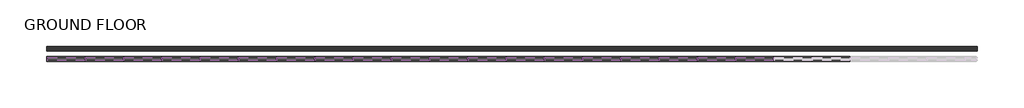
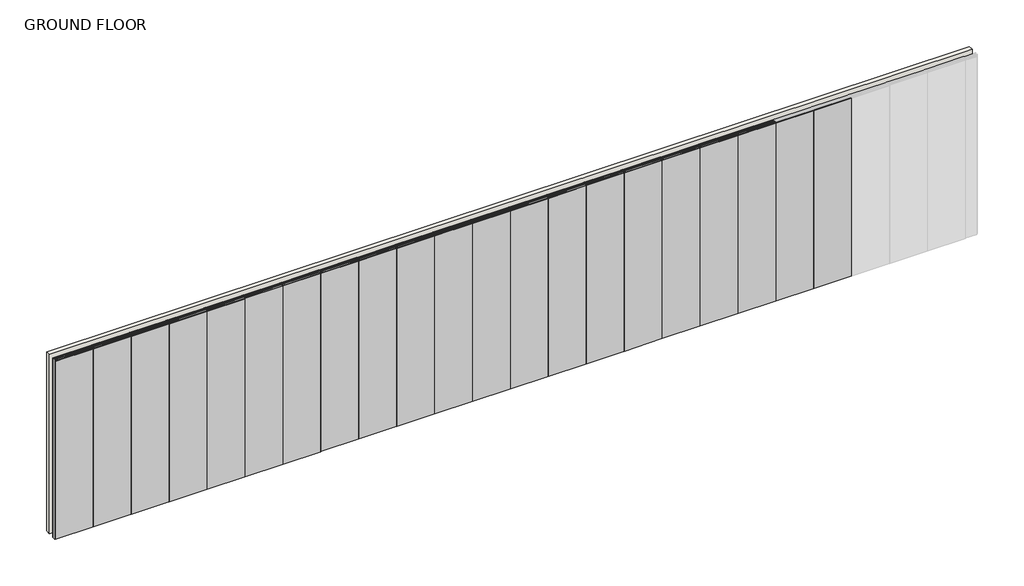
# One storey, part 1 of 2: 57 members, 21 plates, 1 wall.
"""IFC4 building model written with IfcOpenShell, lengths in millimetres."""

from ifc_helpers import new_model, si_unit, origin, origin_with_axes, place, context, project, spatial, polyline, outline, extrude, transform, mapped, element, save
from components import rectangular_mullion_stud_mullion_51mm_2ef0a27f, rectangular_mullion_stud_mullion_51mm_a2fb9e12, rectangular_mullion_stud_mullion_51mm_92998b61, rectangular_mullion_stud_mullion_51mm_8a3d9f1b, plate_2_layer_drywall_panels_2_layer_12mm_thick_drywall_a247d09f

model = new_model("IFC4")

# Units and contexts
model_context = context("Model", 3, world=origin())
ifc_project = project(units=[si_unit("LENGTHUNIT", "METRE", prefix="MILLI")], contexts=[model_context])

# Site, building, storey
site = spatial("IfcSite", under=ifc_project)
building = spatial("IfcBuilding", under=site)
storey = spatial("IfcBuildingStorey", under=building, Name="GROUND FLOOR", Elevation=0.0)

# Members
placement = place(None, origin())
rectangular_mullion_stud_mullion_51mm_shape = rectangular_mullion_stud_mullion_51mm_2ef0a27f(model_context)
element("IfcMember", 1, ObjectType="Rectangular Mullion : Stud Mullion - 51mm", at=placement, inside=storey, context=model_context, shape_type="MappedRepresentation", body=[
    mapped(rectangular_mullion_stud_mullion_51mm_shape, transform((61654.5186508, -7259.4010443, 0.0), x_axis=(0.0, 0.0, -1.0), y_axis=(0.0, -1.0, 0.0), z_axis=(-1.0, 0.0, 0.0))),
])
element("IfcMember", 2, ObjectType="Rectangular Mullion : Stud Mullion - 51mm", at=placement, inside=storey, context=model_context, shape_type="MappedRepresentation", body=[
    mapped(rectangular_mullion_stud_mullion_51mm_shape, transform((62254.5186511, -7259.4010443, 0.0), x_axis=(0.0, 0.0, -1.0), y_axis=(0.0, -1.0, 0.0), z_axis=(-1.0, 0.0, 0.0))),
])
element("IfcMember", 3, ObjectType="Rectangular Mullion : Stud Mullion - 51mm", at=placement, inside=storey, context=model_context, shape_type="MappedRepresentation", body=[
    mapped(rectangular_mullion_stud_mullion_51mm_shape, transform((62854.5186511, -7259.4010443, 0.0), x_axis=(0.0, 0.0, -1.0), y_axis=(0.0, -1.0, 0.0), z_axis=(-1.0, 0.0, 0.0))),
])
element("IfcMember", 4, ObjectType="Rectangular Mullion : Stud Mullion - 51mm", at=placement, inside=storey, context=model_context, shape_type="MappedRepresentation", body=[
    mapped(rectangular_mullion_stud_mullion_51mm_shape, transform((63454.5186511, -7259.4010443, 0.0), x_axis=(0.0, 0.0, -1.0), y_axis=(0.0, -1.0, 0.0), z_axis=(-1.0, 0.0, 0.0))),
])
element("IfcMember", 5, ObjectType="Rectangular Mullion : Stud Mullion - 51mm", at=placement, inside=storey, context=model_context, shape_type="MappedRepresentation", body=[
    mapped(rectangular_mullion_stud_mullion_51mm_shape, transform((64054.5186511, -7259.4010443, 0.0), x_axis=(0.0, 0.0, -1.0), y_axis=(0.0, -1.0, 0.0), z_axis=(-1.0, 0.0, 0.0))),
])
element("IfcMember", 6, ObjectType="Rectangular Mullion : Stud Mullion - 51mm", at=placement, inside=storey, context=model_context, shape_type="MappedRepresentation", body=[
    mapped(rectangular_mullion_stud_mullion_51mm_shape, transform((64654.5186511, -7259.4010443, 0.0), x_axis=(0.0, 0.0, -1.0), y_axis=(0.0, -1.0, 0.0), z_axis=(-1.0, 0.0, 0.0))),
])
element("IfcMember", 7, ObjectType="Rectangular Mullion : Stud Mullion - 51mm", at=placement, inside=storey, context=model_context, shape_type="MappedRepresentation", body=[
    mapped(rectangular_mullion_stud_mullion_51mm_shape, transform((65254.5186511, -7259.4010443, 0.0), x_axis=(0.0, 0.0, -1.0), y_axis=(0.0, -1.0, 0.0), z_axis=(-1.0, 0.0, 0.0))),
])
element("IfcMember", 8, ObjectType="Rectangular Mullion : Stud Mullion - 51mm", at=placement, inside=storey, context=model_context, shape_type="MappedRepresentation", body=[
    mapped(rectangular_mullion_stud_mullion_51mm_shape, transform((65854.5186511, -7259.4010443, 0.0), x_axis=(0.0, 0.0, -1.0), y_axis=(0.0, -1.0, 0.0), z_axis=(-1.0, 0.0, 0.0))),
])
element("IfcMember", 9, ObjectType="Rectangular Mullion : Stud Mullion - 51mm", at=placement, inside=storey, context=model_context, shape_type="MappedRepresentation", body=[
    mapped(rectangular_mullion_stud_mullion_51mm_shape, transform((66454.5186511, -7259.4010443, 0.0), x_axis=(0.0, 0.0, -1.0), y_axis=(0.0, -1.0, 0.0), z_axis=(-1.0, 0.0, 0.0))),
])
element("IfcMember", 10, ObjectType="Rectangular Mullion : Stud Mullion - 51mm", at=placement, inside=storey, context=model_context, shape_type="MappedRepresentation", body=[
    mapped(rectangular_mullion_stud_mullion_51mm_shape, transform((67054.5186511, -7259.4010443, 0.0), x_axis=(0.0, 0.0, -1.0), y_axis=(0.0, -1.0, 0.0), z_axis=(-1.0, 0.0, 0.0))),
])
element("IfcMember", 11, ObjectType="Rectangular Mullion : Stud Mullion - 51mm", at=placement, inside=storey, context=model_context, shape_type="MappedRepresentation", body=[
    mapped(rectangular_mullion_stud_mullion_51mm_shape, transform((67654.5186511, -7259.4010443, 0.0), x_axis=(0.0, 0.0, -1.0), y_axis=(0.0, -1.0, 0.0), z_axis=(-1.0, 0.0, 0.0))),
])
element("IfcMember", 12, ObjectType="Rectangular Mullion : Stud Mullion - 51mm", at=placement, inside=storey, context=model_context, shape_type="MappedRepresentation", body=[
    mapped(rectangular_mullion_stud_mullion_51mm_shape, transform((68254.5186511, -7259.4010443, 0.0), x_axis=(0.0, 0.0, -1.0), y_axis=(0.0, -1.0, 0.0), z_axis=(-1.0, 0.0, 0.0))),
])
element("IfcMember", 13, ObjectType="Rectangular Mullion : Stud Mullion - 51mm", at=placement, inside=storey, context=model_context, shape_type="MappedRepresentation", body=[
    mapped(rectangular_mullion_stud_mullion_51mm_shape, transform((68854.5186511, -7259.4010443, 0.0), x_axis=(0.0, 0.0, -1.0), y_axis=(0.0, -1.0, 0.0), z_axis=(-1.0, 0.0, 0.0))),
])
element("IfcMember", 14, ObjectType="Rectangular Mullion : Stud Mullion - 51mm", at=placement, inside=storey, context=model_context, shape_type="MappedRepresentation", body=[
    mapped(rectangular_mullion_stud_mullion_51mm_shape, transform((69454.5186511, -7259.4010443, 0.0), x_axis=(0.0, 0.0, -1.0), y_axis=(0.0, -1.0, 0.0), z_axis=(-1.0, 0.0, 0.0))),
])
element("IfcMember", 15, ObjectType="Rectangular Mullion : Stud Mullion - 51mm", at=placement, inside=storey, context=model_context, shape_type="MappedRepresentation", body=[
    mapped(rectangular_mullion_stud_mullion_51mm_shape, transform((70054.5186511, -7259.4010443, 0.0), x_axis=(0.0, 0.0, -1.0), y_axis=(0.0, -1.0, 0.0), z_axis=(-1.0, 0.0, 0.0))),
])
element("IfcMember", 16, ObjectType="Rectangular Mullion : Stud Mullion - 51mm", at=placement, inside=storey, context=model_context, shape_type="MappedRepresentation", body=[
    mapped(rectangular_mullion_stud_mullion_51mm_shape, transform((70654.5186511, -7259.4010443, 0.0), x_axis=(0.0, 0.0, -1.0), y_axis=(0.0, -1.0, 0.0), z_axis=(-1.0, 0.0, 0.0))),
])
element("IfcMember", 17, ObjectType="Rectangular Mullion : Stud Mullion - 51mm", at=placement, inside=storey, context=model_context, shape_type="MappedRepresentation", body=[
    mapped(rectangular_mullion_stud_mullion_51mm_shape, transform((71254.5186511, -7259.4010443, 0.0), x_axis=(0.0, 0.0, -1.0), y_axis=(0.0, -1.0, 0.0), z_axis=(-1.0, 0.0, 0.0))),
])
element("IfcMember", 18, ObjectType="Rectangular Mullion : Stud Mullion - 51mm", at=placement, inside=storey, context=model_context, shape_type="MappedRepresentation", body=[
    mapped(rectangular_mullion_stud_mullion_51mm_shape, transform((71854.5186511, -7259.4010443, 0.0), x_axis=(0.0, 0.0, -1.0), y_axis=(0.0, -1.0, 0.0), z_axis=(-1.0, 0.0, 0.0))),
])
element("IfcMember", 19, ObjectType="Rectangular Mullion : Stud Mullion - 51mm", at=placement, inside=storey, context=model_context, shape_type="MappedRepresentation", body=[
    mapped(rectangular_mullion_stud_mullion_51mm_shape, transform((72454.5186511, -7259.4010443, 0.0), x_axis=(0.0, 0.0, -1.0), y_axis=(0.0, -1.0, 0.0), z_axis=(-1.0, 0.0, 0.0))),
])
rectangular_mullion_stud_mullion_51mm_2_shape = rectangular_mullion_stud_mullion_51mm_a2fb9e12(model_context)
element("IfcMember", 20, ObjectType="Rectangular Mullion : Stud Mullion - 51mm", at=placement, inside=storey, context=model_context, shape_type="MappedRepresentation", body=[
    mapped(rectangular_mullion_stud_mullion_51mm_2_shape, transform((61635.5186508, -7259.4010443, 3000.0), x_axis=(-1.0, 0.0, 0.0), y_axis=(0.0, -1.0, 0.0), z_axis=(0.0, 0.0, 1.0))),
])
rectangular_mullion_stud_mullion_51mm_3_shape = rectangular_mullion_stud_mullion_51mm_92998b61(model_context)
element("IfcMember", 21, ObjectType="Rectangular Mullion : Stud Mullion - 51mm", at=placement, inside=storey, context=model_context, shape_type="MappedRepresentation", body=[
    mapped(rectangular_mullion_stud_mullion_51mm_3_shape, transform((62235.5186511, -7259.4010443, 3000.0), x_axis=(0.0, 0.0, 1.0), y_axis=(0.0, -1.0, 0.0), z_axis=(1.0, 0.0, 0.0))),
])
element("IfcMember", 22, ObjectType="Rectangular Mullion : Stud Mullion - 51mm", at=placement, inside=storey, context=model_context, shape_type="MappedRepresentation", body=[
    mapped(rectangular_mullion_stud_mullion_51mm_3_shape, transform((62835.5186511, -7259.4010443, 3000.0), x_axis=(0.0, 0.0, 1.0), y_axis=(0.0, -1.0, 0.0), z_axis=(1.0, 0.0, 0.0))),
])
element("IfcMember", 23, ObjectType="Rectangular Mullion : Stud Mullion - 51mm", at=placement, inside=storey, context=model_context, shape_type="MappedRepresentation", body=[
    mapped(rectangular_mullion_stud_mullion_51mm_3_shape, transform((63435.5186511, -7259.4010443, 3000.0), x_axis=(0.0, 0.0, 1.0), y_axis=(0.0, -1.0, 0.0), z_axis=(1.0, 0.0, 0.0))),
])
element("IfcMember", 24, ObjectType="Rectangular Mullion : Stud Mullion - 51mm", at=placement, inside=storey, context=model_context, shape_type="MappedRepresentation", body=[
    mapped(rectangular_mullion_stud_mullion_51mm_3_shape, transform((64035.5186511, -7259.4010443, 3000.0), x_axis=(0.0, 0.0, 1.0), y_axis=(0.0, -1.0, 0.0), z_axis=(1.0, 0.0, 0.0))),
])
element("IfcMember", 25, ObjectType="Rectangular Mullion : Stud Mullion - 51mm", at=placement, inside=storey, context=model_context, shape_type="MappedRepresentation", body=[
    mapped(rectangular_mullion_stud_mullion_51mm_3_shape, transform((64635.5186511, -7259.4010443, 3000.0), x_axis=(0.0, 0.0, 1.0), y_axis=(0.0, -1.0, 0.0), z_axis=(1.0, 0.0, 0.0))),
])
element("IfcMember", 26, ObjectType="Rectangular Mullion : Stud Mullion - 51mm", at=placement, inside=storey, context=model_context, shape_type="MappedRepresentation", body=[
    mapped(rectangular_mullion_stud_mullion_51mm_3_shape, transform((65235.5186511, -7259.4010443, 3000.0), x_axis=(0.0, 0.0, 1.0), y_axis=(0.0, -1.0, 0.0), z_axis=(1.0, 0.0, 0.0))),
])
element("IfcMember", 27, ObjectType="Rectangular Mullion : Stud Mullion - 51mm", at=placement, inside=storey, context=model_context, shape_type="MappedRepresentation", body=[
    mapped(rectangular_mullion_stud_mullion_51mm_3_shape, transform((65835.5186511, -7259.4010443, 3000.0), x_axis=(0.0, 0.0, 1.0), y_axis=(0.0, -1.0, 0.0), z_axis=(1.0, 0.0, 0.0))),
])
element("IfcMember", 28, ObjectType="Rectangular Mullion : Stud Mullion - 51mm", at=placement, inside=storey, context=model_context, shape_type="MappedRepresentation", body=[
    mapped(rectangular_mullion_stud_mullion_51mm_3_shape, transform((66435.5186511, -7259.4010443, 3000.0), x_axis=(0.0, 0.0, 1.0), y_axis=(0.0, -1.0, 0.0), z_axis=(1.0, 0.0, 0.0))),
])
element("IfcMember", 29, ObjectType="Rectangular Mullion : Stud Mullion - 51mm", at=placement, inside=storey, context=model_context, shape_type="MappedRepresentation", body=[
    mapped(rectangular_mullion_stud_mullion_51mm_3_shape, transform((67035.5186511, -7259.4010443, 3000.0), x_axis=(0.0, 0.0, 1.0), y_axis=(0.0, -1.0, 0.0), z_axis=(1.0, 0.0, 0.0))),
])
element("IfcMember", 30, ObjectType="Rectangular Mullion : Stud Mullion - 51mm", at=placement, inside=storey, context=model_context, shape_type="MappedRepresentation", body=[
    mapped(rectangular_mullion_stud_mullion_51mm_3_shape, transform((67635.5186511, -7259.4010443, 3000.0), x_axis=(0.0, 0.0, 1.0), y_axis=(0.0, -1.0, 0.0), z_axis=(1.0, 0.0, 0.0))),
])
element("IfcMember", 31, ObjectType="Rectangular Mullion : Stud Mullion - 51mm", at=placement, inside=storey, context=model_context, shape_type="MappedRepresentation", body=[
    mapped(rectangular_mullion_stud_mullion_51mm_3_shape, transform((68235.5186511, -7259.4010443, 3000.0), x_axis=(0.0, 0.0, 1.0), y_axis=(0.0, -1.0, 0.0), z_axis=(1.0, 0.0, 0.0))),
])
element("IfcMember", 32, ObjectType="Rectangular Mullion : Stud Mullion - 51mm", at=placement, inside=storey, context=model_context, shape_type="MappedRepresentation", body=[
    mapped(rectangular_mullion_stud_mullion_51mm_3_shape, transform((68835.5186511, -7259.4010443, 3000.0), x_axis=(0.0, 0.0, 1.0), y_axis=(0.0, -1.0, 0.0), z_axis=(1.0, 0.0, 0.0))),
])
element("IfcMember", 33, ObjectType="Rectangular Mullion : Stud Mullion - 51mm", at=placement, inside=storey, context=model_context, shape_type="MappedRepresentation", body=[
    mapped(rectangular_mullion_stud_mullion_51mm_3_shape, transform((69435.5186511, -7259.4010443, 3000.0), x_axis=(0.0, 0.0, 1.0), y_axis=(0.0, -1.0, 0.0), z_axis=(1.0, 0.0, 0.0))),
])
element("IfcMember", 34, ObjectType="Rectangular Mullion : Stud Mullion - 51mm", at=placement, inside=storey, context=model_context, shape_type="MappedRepresentation", body=[
    mapped(rectangular_mullion_stud_mullion_51mm_3_shape, transform((70035.5186511, -7259.4010443, 3000.0), x_axis=(0.0, 0.0, 1.0), y_axis=(0.0, -1.0, 0.0), z_axis=(1.0, 0.0, 0.0))),
])
element("IfcMember", 35, ObjectType="Rectangular Mullion : Stud Mullion - 51mm", at=placement, inside=storey, context=model_context, shape_type="MappedRepresentation", body=[
    mapped(rectangular_mullion_stud_mullion_51mm_3_shape, transform((70635.5186511, -7259.4010443, 3000.0), x_axis=(0.0, 0.0, 1.0), y_axis=(0.0, -1.0, 0.0), z_axis=(1.0, 0.0, 0.0))),
])
element("IfcMember", 36, ObjectType="Rectangular Mullion : Stud Mullion - 51mm", at=placement, inside=storey, context=model_context, shape_type="MappedRepresentation", body=[
    mapped(rectangular_mullion_stud_mullion_51mm_3_shape, transform((71235.5186511, -7259.4010443, 3000.0), x_axis=(0.0, 0.0, 1.0), y_axis=(0.0, -1.0, 0.0), z_axis=(1.0, 0.0, 0.0))),
])
element("IfcMember", 37, ObjectType="Rectangular Mullion : Stud Mullion - 51mm", at=placement, inside=storey, context=model_context, shape_type="MappedRepresentation", body=[
    mapped(rectangular_mullion_stud_mullion_51mm_3_shape, transform((71835.5186511, -7259.4010443, 3000.0), x_axis=(0.0, 0.0, 1.0), y_axis=(0.0, -1.0, 0.0), z_axis=(1.0, 0.0, 0.0))),
])
element("IfcMember", 38, ObjectType="Rectangular Mullion : Stud Mullion - 51mm", at=placement, inside=storey, context=model_context, shape_type="MappedRepresentation", body=[
    mapped(rectangular_mullion_stud_mullion_51mm_3_shape, transform((72435.5186511, -7259.4010443, 3000.0), x_axis=(0.0, 0.0, 1.0), y_axis=(0.0, -1.0, 0.0), z_axis=(1.0, 0.0, 0.0))),
])
element("IfcMember", 39, ObjectType="Rectangular Mullion : Stud Mullion - 51mm", at=placement, inside=storey, context=model_context, shape_type="MappedRepresentation", body=[
    mapped(rectangular_mullion_stud_mullion_51mm_3_shape, transform((73035.5186511, -7259.4010443, 3000.0), x_axis=(0.0, 0.0, 1.0), y_axis=(0.0, -1.0, 0.0), z_axis=(1.0, 0.0, 0.0))),
])
rectangular_mullion_stud_mullion_51mm_4_shape = rectangular_mullion_stud_mullion_51mm_8a3d9f1b(model_context)
element("IfcMember", 40, ObjectType="Rectangular Mullion : Stud Mullion - 51mm", at=placement, inside=storey, context=model_context, shape_type="MappedRepresentation", body=[
    mapped(rectangular_mullion_stud_mullion_51mm_4_shape, transform((62245.0186511, -7259.4010443, 0.0), x_axis=(1.0, 0.0, 0.0), y_axis=(0.0, -1.0, 0.0), z_axis=(0.0, 0.0, -1.0))),
])
element("IfcMember", 41, ObjectType="Rectangular Mullion : Stud Mullion - 51mm", at=placement, inside=storey, context=model_context, shape_type="MappedRepresentation", body=[
    mapped(rectangular_mullion_stud_mullion_51mm_4_shape, transform((62845.0186511, -7259.4010443, 0.0), x_axis=(1.0, 0.0, 0.0), y_axis=(0.0, -1.0, 0.0), z_axis=(0.0, 0.0, -1.0))),
])
element("IfcMember", 42, ObjectType="Rectangular Mullion : Stud Mullion - 51mm", at=placement, inside=storey, context=model_context, shape_type="MappedRepresentation", body=[
    mapped(rectangular_mullion_stud_mullion_51mm_4_shape, transform((63445.0186511, -7259.4010443, 0.0), x_axis=(1.0, 0.0, 0.0), y_axis=(0.0, -1.0, 0.0), z_axis=(0.0, 0.0, -1.0))),
])
element("IfcMember", 43, ObjectType="Rectangular Mullion : Stud Mullion - 51mm", at=placement, inside=storey, context=model_context, shape_type="MappedRepresentation", body=[
    mapped(rectangular_mullion_stud_mullion_51mm_4_shape, transform((64045.0186511, -7259.4010443, 0.0), x_axis=(1.0, 0.0, 0.0), y_axis=(0.0, -1.0, 0.0), z_axis=(0.0, 0.0, -1.0))),
])
element("IfcMember", 44, ObjectType="Rectangular Mullion : Stud Mullion - 51mm", at=placement, inside=storey, context=model_context, shape_type="MappedRepresentation", body=[
    mapped(rectangular_mullion_stud_mullion_51mm_4_shape, transform((64645.0186511, -7259.4010443, 0.0), x_axis=(1.0, 0.0, 0.0), y_axis=(0.0, -1.0, 0.0), z_axis=(0.0, 0.0, -1.0))),
])
element("IfcMember", 45, ObjectType="Rectangular Mullion : Stud Mullion - 51mm", at=placement, inside=storey, context=model_context, shape_type="MappedRepresentation", body=[
    mapped(rectangular_mullion_stud_mullion_51mm_4_shape, transform((65245.0186511, -7259.4010443, 0.0), x_axis=(1.0, 0.0, 0.0), y_axis=(0.0, -1.0, 0.0), z_axis=(0.0, 0.0, -1.0))),
])
element("IfcMember", 46, ObjectType="Rectangular Mullion : Stud Mullion - 51mm", at=placement, inside=storey, context=model_context, shape_type="MappedRepresentation", body=[
    mapped(rectangular_mullion_stud_mullion_51mm_4_shape, transform((65845.0186511, -7259.4010443, 0.0), x_axis=(1.0, 0.0, 0.0), y_axis=(0.0, -1.0, 0.0), z_axis=(0.0, 0.0, -1.0))),
])
element("IfcMember", 47, ObjectType="Rectangular Mullion : Stud Mullion - 51mm", at=placement, inside=storey, context=model_context, shape_type="MappedRepresentation", body=[
    mapped(rectangular_mullion_stud_mullion_51mm_4_shape, transform((66445.0186511, -7259.4010443, 0.0), x_axis=(1.0, 0.0, 0.0), y_axis=(0.0, -1.0, 0.0), z_axis=(0.0, 0.0, -1.0))),
])
element("IfcMember", 48, ObjectType="Rectangular Mullion : Stud Mullion - 51mm", at=placement, inside=storey, context=model_context, shape_type="MappedRepresentation", body=[
    mapped(rectangular_mullion_stud_mullion_51mm_4_shape, transform((67045.0186511, -7259.4010443, 0.0), x_axis=(1.0, 0.0, 0.0), y_axis=(0.0, -1.0, 0.0), z_axis=(0.0, 0.0, -1.0))),
])
element("IfcMember", 49, ObjectType="Rectangular Mullion : Stud Mullion - 51mm", at=placement, inside=storey, context=model_context, shape_type="MappedRepresentation", body=[
    mapped(rectangular_mullion_stud_mullion_51mm_4_shape, transform((67645.0186511, -7259.4010443, 0.0), x_axis=(1.0, 0.0, 0.0), y_axis=(0.0, -1.0, 0.0), z_axis=(0.0, 0.0, -1.0))),
])
element("IfcMember", 50, ObjectType="Rectangular Mullion : Stud Mullion - 51mm", at=placement, inside=storey, context=model_context, shape_type="MappedRepresentation", body=[
    mapped(rectangular_mullion_stud_mullion_51mm_4_shape, transform((68245.0186511, -7259.4010443, 0.0), x_axis=(1.0, 0.0, 0.0), y_axis=(0.0, -1.0, 0.0), z_axis=(0.0, 0.0, -1.0))),
])
element("IfcMember", 51, ObjectType="Rectangular Mullion : Stud Mullion - 51mm", at=placement, inside=storey, context=model_context, shape_type="MappedRepresentation", body=[
    mapped(rectangular_mullion_stud_mullion_51mm_4_shape, transform((68845.0186511, -7259.4010443, 0.0), x_axis=(1.0, 0.0, 0.0), y_axis=(0.0, -1.0, 0.0), z_axis=(0.0, 0.0, -1.0))),
])
element("IfcMember", 52, ObjectType="Rectangular Mullion : Stud Mullion - 51mm", at=placement, inside=storey, context=model_context, shape_type="MappedRepresentation", body=[
    mapped(rectangular_mullion_stud_mullion_51mm_4_shape, transform((69445.0186511, -7259.4010443, 0.0), x_axis=(1.0, 0.0, 0.0), y_axis=(0.0, -1.0, 0.0), z_axis=(0.0, 0.0, -1.0))),
])
element("IfcMember", 53, ObjectType="Rectangular Mullion : Stud Mullion - 51mm", at=placement, inside=storey, context=model_context, shape_type="MappedRepresentation", body=[
    mapped(rectangular_mullion_stud_mullion_51mm_4_shape, transform((70045.0186511, -7259.4010443, 0.0), x_axis=(1.0, 0.0, 0.0), y_axis=(0.0, -1.0, 0.0), z_axis=(0.0, 0.0, -1.0))),
])
element("IfcMember", 54, ObjectType="Rectangular Mullion : Stud Mullion - 51mm", at=placement, inside=storey, context=model_context, shape_type="MappedRepresentation", body=[
    mapped(rectangular_mullion_stud_mullion_51mm_4_shape, transform((70645.0186511, -7259.4010443, 0.0), x_axis=(1.0, 0.0, 0.0), y_axis=(0.0, -1.0, 0.0), z_axis=(0.0, 0.0, -1.0))),
])
element("IfcMember", 55, ObjectType="Rectangular Mullion : Stud Mullion - 51mm", at=placement, inside=storey, context=model_context, shape_type="MappedRepresentation", body=[
    mapped(rectangular_mullion_stud_mullion_51mm_4_shape, transform((71245.0186511, -7259.4010443, 0.0), x_axis=(1.0, 0.0, 0.0), y_axis=(0.0, -1.0, 0.0), z_axis=(0.0, 0.0, -1.0))),
])
element("IfcMember", 56, ObjectType="Rectangular Mullion : Stud Mullion - 51mm", at=placement, inside=storey, context=model_context, shape_type="MappedRepresentation", body=[
    mapped(rectangular_mullion_stud_mullion_51mm_4_shape, transform((71845.0186511, -7259.4010443, 0.0), x_axis=(1.0, 0.0, 0.0), y_axis=(0.0, -1.0, 0.0), z_axis=(0.0, 0.0, -1.0))),
])
element("IfcMember", 57, ObjectType="Rectangular Mullion : Stud Mullion - 51mm", at=placement, inside=storey, context=model_context, shape_type="MappedRepresentation", body=[
    mapped(rectangular_mullion_stud_mullion_51mm_4_shape, transform((72445.0186511, -7259.4010443, 0.0), x_axis=(1.0, 0.0, 0.0), y_axis=(0.0, -1.0, 0.0), z_axis=(0.0, 0.0, -1.0))),
])

# Plates
plate_2_layer_drywall_panels_2_layer_12mm_thick_drywall_shape = plate_2_layer_drywall_panels_2_layer_12mm_thick_drywall_a247d09f(model_context)
element("IfcPlate", 58, ObjectType="2 Layer - Drywall Panels : 2 Layer - 12mm thick Drywall Panels 76mm", at=placement, inside=storey, context=model_context, shape_type="MappedRepresentation", body=[
    mapped(plate_2_layer_drywall_panels_2_layer_12mm_thick_drywall_shape, transform((61936.318651, -7259.4010443, 1.6), x_axis=(1.0, 0.0, 0.0), y_axis=(0.0, 1.0, 0.0), z_axis=(0.0, 0.0, 1.0))),
])
element("IfcPlate", 59, ObjectType="2 Layer - Drywall Panels : 2 Layer - 12mm thick Drywall Panels 76mm", at=placement, inside=storey, context=model_context, shape_type="MappedRepresentation", body=[
    mapped(plate_2_layer_drywall_panels_2_layer_12mm_thick_drywall_shape, transform((62536.3186511, -7259.4010443, 1.6), x_axis=(1.0, 0.0, 0.0), y_axis=(0.0, 1.0, 0.0), z_axis=(0.0, 0.0, 1.0))),
])
element("IfcPlate", 60, ObjectType="2 Layer - Drywall Panels : 2 Layer - 12mm thick Drywall Panels 76mm", at=placement, inside=storey, context=model_context, shape_type="MappedRepresentation", body=[
    mapped(plate_2_layer_drywall_panels_2_layer_12mm_thick_drywall_shape, transform((63136.3186511, -7259.4010443, 1.6), x_axis=(1.0, 0.0, 0.0), y_axis=(0.0, 1.0, 0.0), z_axis=(0.0, 0.0, 1.0))),
])
element("IfcPlate", 61, ObjectType="2 Layer - Drywall Panels : 2 Layer - 12mm thick Drywall Panels 76mm", at=placement, inside=storey, context=model_context, shape_type="MappedRepresentation", body=[
    mapped(plate_2_layer_drywall_panels_2_layer_12mm_thick_drywall_shape, transform((63736.3186511, -7259.4010443, 1.6), x_axis=(1.0, 0.0, 0.0), y_axis=(0.0, 1.0, 0.0), z_axis=(0.0, 0.0, 1.0))),
])
element("IfcPlate", 62, ObjectType="2 Layer - Drywall Panels : 2 Layer - 12mm thick Drywall Panels 76mm", at=placement, inside=storey, context=model_context, shape_type="MappedRepresentation", body=[
    mapped(plate_2_layer_drywall_panels_2_layer_12mm_thick_drywall_shape, transform((64336.3186511, -7259.4010443, 1.6), x_axis=(1.0, 0.0, 0.0), y_axis=(0.0, 1.0, 0.0), z_axis=(0.0, 0.0, 1.0))),
])
element("IfcPlate", 63, ObjectType="2 Layer - Drywall Panels : 2 Layer - 12mm thick Drywall Panels 76mm", at=placement, inside=storey, context=model_context, shape_type="MappedRepresentation", body=[
    mapped(plate_2_layer_drywall_panels_2_layer_12mm_thick_drywall_shape, transform((64936.3186511, -7259.4010443, 1.6), x_axis=(1.0, 0.0, 0.0), y_axis=(0.0, 1.0, 0.0), z_axis=(0.0, 0.0, 1.0))),
])
element("IfcPlate", 64, ObjectType="2 Layer - Drywall Panels : 2 Layer - 12mm thick Drywall Panels 76mm", at=placement, inside=storey, context=model_context, shape_type="MappedRepresentation", body=[
    mapped(plate_2_layer_drywall_panels_2_layer_12mm_thick_drywall_shape, transform((65536.3186511, -7259.4010443, 1.6), x_axis=(1.0, 0.0, 0.0), y_axis=(0.0, 1.0, 0.0), z_axis=(0.0, 0.0, 1.0))),
])
element("IfcPlate", 65, ObjectType="2 Layer - Drywall Panels : 2 Layer - 12mm thick Drywall Panels 76mm", at=placement, inside=storey, context=model_context, shape_type="MappedRepresentation", body=[
    mapped(plate_2_layer_drywall_panels_2_layer_12mm_thick_drywall_shape, transform((66136.3186511, -7259.4010443, 1.6), x_axis=(1.0, 0.0, 0.0), y_axis=(0.0, 1.0, 0.0), z_axis=(0.0, 0.0, 1.0))),
])
element("IfcPlate", 66, ObjectType="2 Layer - Drywall Panels : 2 Layer - 12mm thick Drywall Panels 76mm", at=placement, inside=storey, context=model_context, shape_type="MappedRepresentation", body=[
    mapped(plate_2_layer_drywall_panels_2_layer_12mm_thick_drywall_shape, transform((66736.3186511, -7259.4010443, 1.6), x_axis=(1.0, 0.0, 0.0), y_axis=(0.0, 1.0, 0.0), z_axis=(0.0, 0.0, 1.0))),
])
element("IfcPlate", 67, ObjectType="2 Layer - Drywall Panels : 2 Layer - 12mm thick Drywall Panels 76mm", at=placement, inside=storey, context=model_context, shape_type="MappedRepresentation", body=[
    mapped(plate_2_layer_drywall_panels_2_layer_12mm_thick_drywall_shape, transform((67336.3186511, -7259.4010443, 1.6), x_axis=(1.0, 0.0, 0.0), y_axis=(0.0, 1.0, 0.0), z_axis=(0.0, 0.0, 1.0))),
])
element("IfcPlate", 68, ObjectType="2 Layer - Drywall Panels : 2 Layer - 12mm thick Drywall Panels 76mm", at=placement, inside=storey, context=model_context, shape_type="MappedRepresentation", body=[
    mapped(plate_2_layer_drywall_panels_2_layer_12mm_thick_drywall_shape, transform((67936.3186511, -7259.4010443, 1.6), x_axis=(1.0, 0.0, 0.0), y_axis=(0.0, 1.0, 0.0), z_axis=(0.0, 0.0, 1.0))),
])
element("IfcPlate", 69, ObjectType="2 Layer - Drywall Panels : 2 Layer - 12mm thick Drywall Panels 76mm", at=placement, inside=storey, context=model_context, shape_type="MappedRepresentation", body=[
    mapped(plate_2_layer_drywall_panels_2_layer_12mm_thick_drywall_shape, transform((68536.3186511, -7259.4010443, 1.6), x_axis=(1.0, 0.0, 0.0), y_axis=(0.0, 1.0, 0.0), z_axis=(0.0, 0.0, 1.0))),
])
element("IfcPlate", 70, ObjectType="2 Layer - Drywall Panels : 2 Layer - 12mm thick Drywall Panels 76mm", at=placement, inside=storey, context=model_context, shape_type="MappedRepresentation", body=[
    mapped(plate_2_layer_drywall_panels_2_layer_12mm_thick_drywall_shape, transform((69136.3186511, -7259.4010443, 1.6), x_axis=(1.0, 0.0, 0.0), y_axis=(0.0, 1.0, 0.0), z_axis=(0.0, 0.0, 1.0))),
])
element("IfcPlate", 71, ObjectType="2 Layer - Drywall Panels : 2 Layer - 12mm thick Drywall Panels 76mm", at=placement, inside=storey, context=model_context, shape_type="MappedRepresentation", body=[
    mapped(plate_2_layer_drywall_panels_2_layer_12mm_thick_drywall_shape, transform((69736.3186511, -7259.4010443, 1.6), x_axis=(1.0, 0.0, 0.0), y_axis=(0.0, 1.0, 0.0), z_axis=(0.0, 0.0, 1.0))),
])
element("IfcPlate", 72, ObjectType="2 Layer - Drywall Panels : 2 Layer - 12mm thick Drywall Panels 76mm", at=placement, inside=storey, context=model_context, shape_type="MappedRepresentation", body=[
    mapped(plate_2_layer_drywall_panels_2_layer_12mm_thick_drywall_shape, transform((70336.3186511, -7259.4010443, 1.6), x_axis=(1.0, 0.0, 0.0), y_axis=(0.0, 1.0, 0.0), z_axis=(0.0, 0.0, 1.0))),
])
element("IfcPlate", 73, ObjectType="2 Layer - Drywall Panels : 2 Layer - 12mm thick Drywall Panels 76mm", at=placement, inside=storey, context=model_context, shape_type="MappedRepresentation", body=[
    mapped(plate_2_layer_drywall_panels_2_layer_12mm_thick_drywall_shape, transform((70936.3186511, -7259.4010443, 1.6), x_axis=(1.0, 0.0, 0.0), y_axis=(0.0, 1.0, 0.0), z_axis=(0.0, 0.0, 1.0))),
])
element("IfcPlate", 74, ObjectType="2 Layer - Drywall Panels : 2 Layer - 12mm thick Drywall Panels 76mm", at=placement, inside=storey, context=model_context, shape_type="MappedRepresentation", body=[
    mapped(plate_2_layer_drywall_panels_2_layer_12mm_thick_drywall_shape, transform((71536.3186511, -7259.4010443, 1.6), x_axis=(1.0, 0.0, 0.0), y_axis=(0.0, 1.0, 0.0), z_axis=(0.0, 0.0, 1.0))),
])
element("IfcPlate", 75, ObjectType="2 Layer - Drywall Panels : 2 Layer - 12mm thick Drywall Panels 76mm", at=placement, inside=storey, context=model_context, shape_type="MappedRepresentation", body=[
    mapped(plate_2_layer_drywall_panels_2_layer_12mm_thick_drywall_shape, transform((72136.3186511, -7259.4010443, 1.6), x_axis=(1.0, 0.0, 0.0), y_axis=(0.0, 1.0, 0.0), z_axis=(0.0, 0.0, 1.0))),
])
element("IfcPlate", 76, ObjectType="2 Layer - Drywall Panels : 2 Layer - 12mm thick Drywall Panels 76mm", at=placement, inside=storey, context=model_context, shape_type="MappedRepresentation", body=[
    mapped(plate_2_layer_drywall_panels_2_layer_12mm_thick_drywall_shape, transform((72736.3186511, -7259.4010443, 1.6), x_axis=(1.0, 0.0, 0.0), y_axis=(0.0, 1.0, 0.0), z_axis=(0.0, 0.0, 1.0))),
])
element("IfcPlate", 77, ObjectType="2 Layer - Drywall Panels : 2 Layer - 12mm thick Drywall Panels 76mm", at=placement, inside=storey, context=model_context, shape_type="MappedRepresentation", body=[
    mapped(plate_2_layer_drywall_panels_2_layer_12mm_thick_drywall_shape, transform((73336.3186511, -7259.4010443, 1.6), x_axis=(1.0, 0.0, 0.0), y_axis=(0.0, 1.0, 0.0), z_axis=(0.0, 0.0, 1.0))),
])
element("IfcPlate", 78, ObjectType="2 Layer - Drywall Panels : 2 Layer - 12mm thick Drywall Panels 76mm", at=placement, inside=storey, context=model_context, shape_type="MappedRepresentation", body=[
    mapped(plate_2_layer_drywall_panels_2_layer_12mm_thick_drywall_shape, transform((73936.3186511, -7259.4010443, 1.6), x_axis=(1.0, 0.0, 0.0), y_axis=(0.0, 1.0, 0.0), z_axis=(0.0, 0.0, 1.0))),
])

# Wall
element("IfcWall", 79, ObjectType="PW03 - JUMBO MoistureWALL 51/30", at=placement, inside=storey, context=model_context, shape_type="SweptSolid", body=[
    extrude(outline(polyline([(76235.5186508, -7137.4010443), (61635.5186508, -7137.4010443), (61635.5186508, -7061.4010443), (76235.5186508, -7061.4010443), (76235.5186508, -7137.4010443)])), origin_with_axes(), (0.0, 0.0, 1.0), 3000.0),
])

save(model, "model.ifc")
